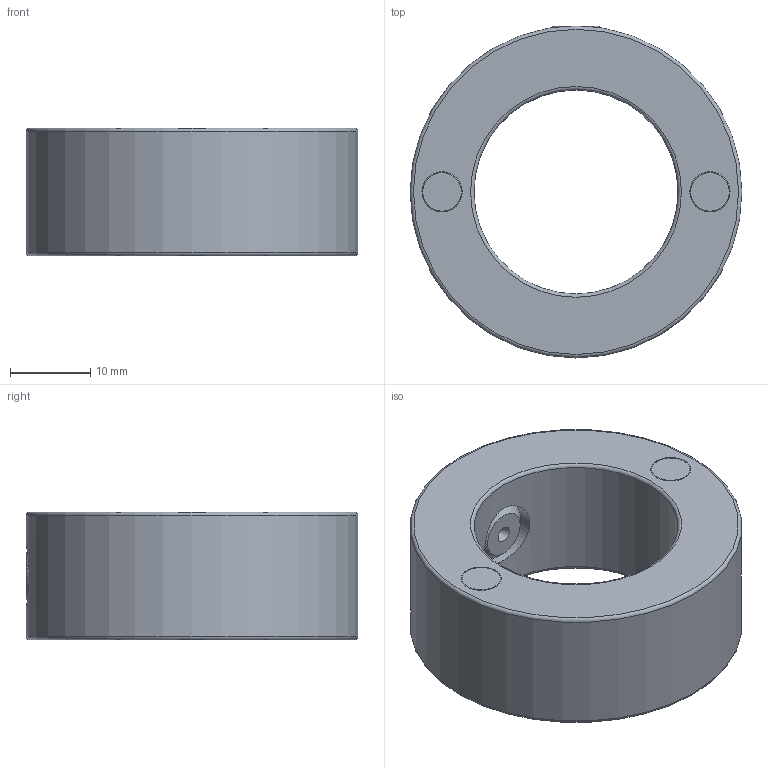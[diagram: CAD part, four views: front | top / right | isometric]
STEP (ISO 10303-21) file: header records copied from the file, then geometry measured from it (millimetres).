
FILE_DESCRIPTION(/* description */ (''),/* implementation_level */ '2;1');
FILE_NAME(/* name */ 'MAG-COL-4-4-CUST-ASSY.step',/* time_stamp */ '2025-10-02T11:29:03-05:00',/* author */ (''),/* organization */ (''),/* preprocessor_version */ 'ST-DEVELOPER v20.1',/* originating_system */ 'Autodesk Translation Framework v14.17.0.0',/* authorisation */ '');
FILE_SCHEMA (('AUTOMOTIVE_DESIGN { 1 0 10303 214 3 1 1 }'));
Length unit declared in the file: inch
Products named in the file (2): MAG-COL-4-4; CYL0159
Assembly tree (2 placements, depth 2):
  MAG-COL-4-4
    CYL0159  x2
Bounding box: 41.27 x 41.27 x 15.88 mm (x, y, z)
Volume: 12875.3 mm3; surface area: 6133.3 mm2
Topology: 4 solids, 4 shells, 34 faces, 71 edges, 46 vertices
Faces by surface type: plane 15, torus 8, cylinder 8, cone 3
Full cylindrical faces by diameter (mm): 5 x4, 7.938 x2, 25.4 x1, 41.275 x1
Entity records: 950 total; most frequent: CARTESIAN_POINT 206, DIRECTION 158, ORIENTED_EDGE 126, AXIS2_PLACEMENT_3D 65, EDGE_CURVE 63, VERTEX_POINT 42, EDGE_LOOP 39, CIRCLE 32
